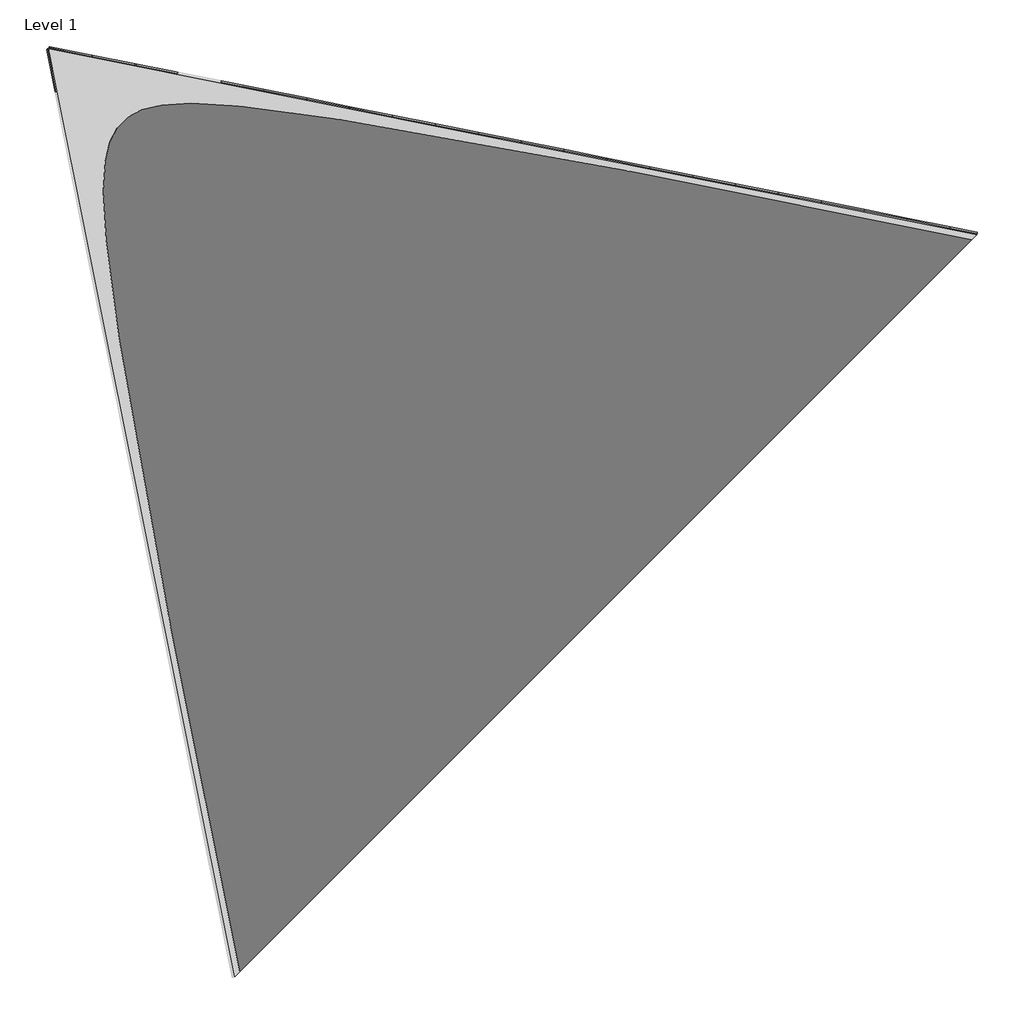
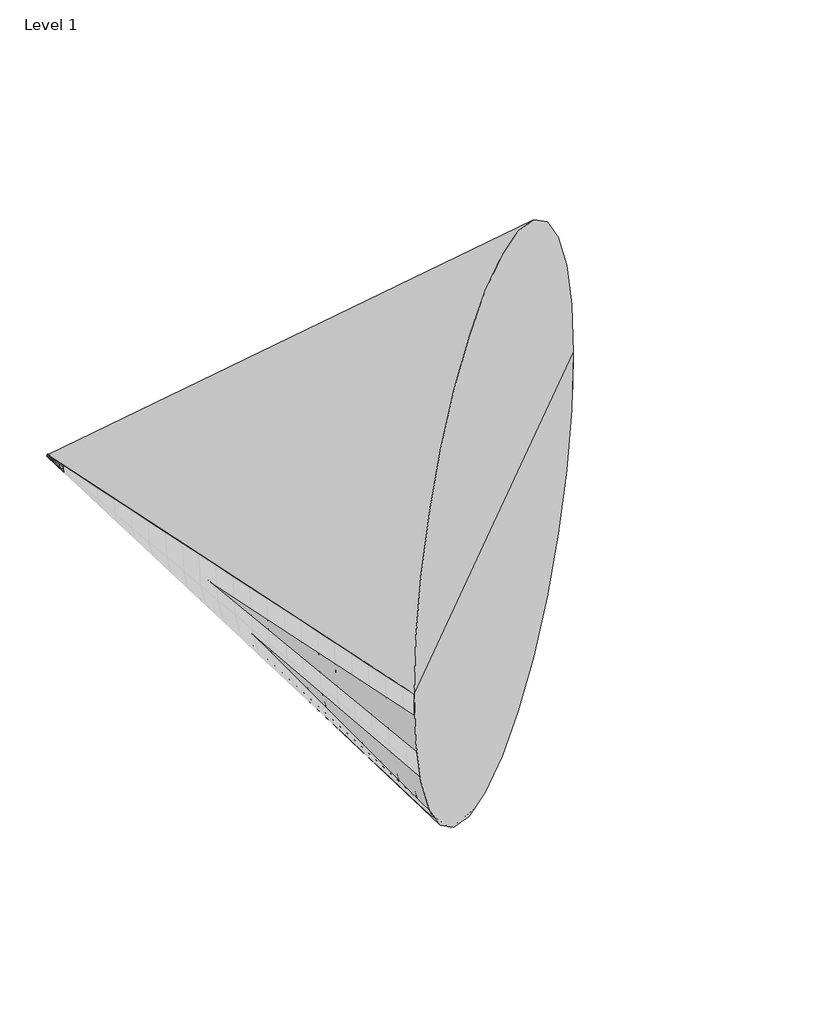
# One storey, part 3 of 3: 69 plates, 1 proxy.
"""IFC4 building model written with IfcOpenShell, lengths in millimetres."""

from ifc_helpers import new_model, si_unit, frame, origin, place, context, project, spatial, polyline, circle_curve, transform, mapped, element, save
from ifc_brep_helpers import plane_surface, revolved_surface, advanced_brep
from components import system_panel_glazed_149e3b02, system_panel_glazed_0f3f0be7, system_panel_glazed_947d4750, system_panel_glazed_51ac6327, system_panel_glazed_5ada25a3, system_panel_glazed_09de8fbd, system_panel_glazed_be0217b8, system_panel_glazed_80685a2c, system_panel_glazed_488679e0, system_panel_glazed_5c7ad1fa, system_panel_glazed_c752f533, system_panel_glazed_6e7ce93c, system_panel_glazed_3d0a4322, system_panel_glazed_0b8fe9c0, system_panel_glazed_589f0e04, system_panel_glazed_dc99ea86, system_panel_glazed_c2bd8b01, system_panel_glazed_5e8676ea, system_panel_glazed_1fc521db, system_panel_glazed_b549858f, system_panel_glazed_7c0acb9c, system_panel_glazed_5a92f5fe, system_panel_glazed_2137f639, system_panel_glazed_2e4be7a0, system_panel_glazed_54807085, system_panel_glazed_7656a875, system_panel_glazed_9aa37749, system_panel_glazed_80a4cad8, system_panel_glazed_08770cbb, system_panel_glazed_88a27ec3, system_panel_glazed_60772631, system_panel_glazed_43d3b831, system_panel_glazed_8fc64467, system_panel_glazed_c03609ab, system_panel_glazed_d4018649, system_panel_glazed_e1847e86, system_panel_glazed_aa8377f3, system_panel_glazed_db9881df, system_panel_glazed_52904192, system_panel_glazed_74823eb2, system_panel_glazed_15a0884d, system_panel_glazed_37a8a3c5, system_panel_glazed_a404a3f6, system_panel_glazed_c19471c4, system_panel_glazed_49170262, system_panel_glazed_a134ef64, system_panel_glazed_4835debb, system_panel_glazed_ed3aa00e

model = new_model("IFC4")

# Units and contexts
model_context = context("Model", 3, world=origin())
ifc_project = project(units=[si_unit("LENGTHUNIT", "METRE", prefix="MILLI")], contexts=[model_context])

# Site, building, storey
site = spatial("IfcSite", under=ifc_project)
building = spatial("IfcBuilding", under=site)
storey = spatial("IfcBuildingStorey", under=building, Name="Level 1", Elevation=0.0)

# Proxy
placement = place(None, origin())
element("IfcBuildingElementProxy", 1, Name="Mass 1 : Mass 1", ObjectType="Mass 1 : Mass 1", at=placement, inside=storey, context=model_context, shape_type="AdvancedBrep", body=[
    advanced_brep(
    [(-1456.3343902, 664.410085, 0.0), (-7922.1187974, -5801.3743221, 0.0), (5009.450017, 7130.1944922, 0.0), (-11155.011001, 10363.0866958, 0.0)],
    [
        (0, 1),
        (1, 2, circle_curve(frame((-1456.3343902, 664.410085, 0.0), z_axis=(0.7071067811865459, -0.7071067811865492, 0.0), x_axis=(-0.7071067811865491, -0.7071067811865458, 0.0)), 9144.0)),
        (2, 0),
        (2, 1, circle_curve(frame((-1456.3343902, 664.410085, 0.0), z_axis=(0.7071067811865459, -0.7071067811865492, 0.0), x_axis=(-0.7071067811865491, -0.7071067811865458, 0.0)), 9144.0)),
        (1, 3),
        (3, 2),
    ],
    [
        plane_surface(frame((-1456.3343902, 664.410085, 0.0), z_axis=(0.7071067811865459, -0.7071067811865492, 0.0), x_axis=(-0.7071067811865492, -0.7071067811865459, 0.0))),
        revolved_surface(polyline([(-11155.011001, 10363.0866958, 0.0), (-7922.1187974, -5801.3743221, 0.0)]), (-1456.3343902, 664.410085, 0.0), (0.7071067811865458, -0.7071067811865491, 0.0)),
    ],
    [
        (0, [[1, 2, 3]]),
        (0, [[-3, 4, -1]]),
        (1, [[-2, 5, 6]]),
        (1, [[-4, -6, -5]]),
    ],
),
])

# Plates
system_panel_glazed_shape = system_panel_glazed_149e3b02(model_context)
element("IfcPlate", 2, ObjectType="System Panel : Glazed", at=placement, inside=storey, context=model_context, shape_type="MappedRepresentation", body=[
    mapped(system_panel_glazed_shape, transform((-11071.5394909, 10086.3775151, -196.1247808), x_axis=(0.238981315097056, -0.7890892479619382, -0.5658852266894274), y_axis=(0.9710241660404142, 0.19420483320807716, 0.1392715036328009), z_axis=(0.0, -0.5827715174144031, 0.8126360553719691))),
])
system_panel_glazed_2_shape = system_panel_glazed_0f3f0be7(model_context)
element("IfcPlate", 3, ObjectType="System Panel : Glazed", at=placement, inside=storey, context=model_context, shape_type="MappedRepresentation", body=[
    mapped(system_panel_glazed_2_shape, transform((-11047.5053237, 10289.2156869, -218.3903844), x_axis=(0.4226580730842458, -0.27761723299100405, -0.8627217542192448), y_axis=(0.9062892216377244, 0.1294698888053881, 0.4023398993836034), z_axis=(0.0, -0.9519276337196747, 0.30632299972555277))),
])
system_panel_glazed_3_shape = system_panel_glazed_947d4750(model_context)
element("IfcPlate", 4, ObjectType="System Panel : Glazed", at=placement, inside=storey, context=model_context, shape_type="MappedRepresentation", body=[
    mapped(system_panel_glazed_3_shape, transform((-11010.3598115, 10357.3376687, -182.6425433), x_axis=(0.6207455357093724, -0.009084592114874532, -0.7839594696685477), y_axis=(0.7840121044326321, 0.007192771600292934, 0.620703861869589), z_axis=(0.0, -0.9999328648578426, 0.011587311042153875))),
])
system_panel_glazed_4_shape = system_panel_glazed_51ac6327(model_context)
element("IfcPlate", 5, ObjectType="System Panel : Glazed", at=placement, inside=storey, context=model_context, shape_type="MappedRepresentation", body=[
    mapped(system_panel_glazed_4_shape, transform((-10964.2302337, 10389.9322155, -147.5013099), x_axis=(0.7863516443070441, 0.1249462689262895, -0.6050120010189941), y_axis=(0.6177791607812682, -0.15904017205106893, 0.7701007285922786), z_axis=(0.0, -0.9793337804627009, -0.20225070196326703))),
])
system_panel_glazed_5_shape = system_panel_glazed_5ada25a3(model_context)
element("IfcPlate", 6, ObjectType="System Panel : Glazed", at=placement, inside=storey, context=model_context, shape_type="MappedRepresentation", body=[
    mapped(system_panel_glazed_5_shape, transform((-10914.2420988, 10404.0145375, -105.7957964), x_axis=(0.9046945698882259, 0.16518775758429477, -0.39273494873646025), y_axis=(0.42606071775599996, -0.3507586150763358, 0.8339308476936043), z_axis=(0.0, -0.921781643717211, -0.38770942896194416))),
])
system_panel_glazed_6_shape = system_panel_glazed_09de8fbd(model_context)
element("IfcPlate", 7, ObjectType="System Panel : Glazed", at=placement, inside=storey, context=model_context, shape_type="MappedRepresentation", body=[
    mapped(system_panel_glazed_6_shape, transform((-10538.8257131, 10082.6290138, -342.5498656), x_axis=(0.5811827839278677, 0.5811827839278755, 0.5696078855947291), y_axis=(0.051840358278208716, -0.7249789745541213, 0.6868173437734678), z_axis=(0.8121201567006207, -0.3696377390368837, -0.4514740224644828))),
])
element("IfcPlate", 8, ObjectType="System Panel : Glazed", at=placement, inside=storey, context=model_context, shape_type="MappedRepresentation", body=[
    mapped(system_panel_glazed_6_shape, transform((-10468.5409856, 10152.9137413, -245.4943542), x_axis=(0.41651481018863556, 0.41651481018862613, 0.8081032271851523), y_axis=(-0.08908151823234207, -0.8659008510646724, 0.4922196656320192), z_axis=(0.9047540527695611, -0.2770038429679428, -0.3235567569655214))),
])
element("IfcPlate", 9, ObjectType="System Panel : Glazed", at=placement, inside=storey, context=model_context, shape_type="MappedRepresentation", body=[
    mapped(system_panel_glazed_6_shape, transform((-10424.7172059, 10196.737521, -121.1616924), x_axis=(0.20556741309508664, 0.20556741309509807, 0.9568093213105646), y_axis=(-0.1769488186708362, -0.9537681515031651, 0.242930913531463), z_axis=(0.9625129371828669, -0.21924495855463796, -0.15968874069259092))),
])
system_panel_glazed_7_shape = system_panel_glazed_be0217b8(model_context)
element("IfcPlate", 10, ObjectType="System Panel : Glazed", at=placement, inside=storey, context=model_context, shape_type="MappedRepresentation", body=[
    mapped(system_panel_glazed_7_shape, transform((-9694.4234108, 10030.3883462, -242.3233849), x_axis=(0.20556741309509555, 0.20556741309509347, 0.9568093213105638), y_axis=(-0.17694881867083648, -0.9537681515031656, 0.24293091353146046), z_axis=(0.962512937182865, -0.21924495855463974, -0.1596887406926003))),
])
system_panel_glazed_8_shape = system_panel_glazed_80685a2c(model_context)
element("IfcPlate", 11, ObjectType="System Panel : Glazed", at=placement, inside=storey, context=model_context, shape_type="MappedRepresentation", body=[
    mapped(system_panel_glazed_8_shape, transform((-7722.6609241, 9312.2219234, -1227.4717712), x_axis=(0.4165148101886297, 0.41651481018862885, 0.8081032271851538), y_axis=(-0.08908151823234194, -0.865900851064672, 0.4922196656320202), z_axis=(0.9047540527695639, -0.2770038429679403, -0.32355675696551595))),
])
element("IfcPlate", 12, ObjectType="System Panel : Glazed", at=placement, inside=storey, context=model_context, shape_type="MappedRepresentation", body=[
    mapped(system_panel_glazed_8_shape, transform((-7503.5420257, 9531.3408218, -605.8084622), x_axis=(0.20556741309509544, 0.2055674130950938, 0.9568093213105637), y_axis=(-0.1769488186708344, -0.9537681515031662, 0.24293091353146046), z_axis=(0.9625129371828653, -0.21924495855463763, -0.15968874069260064))),
])
system_panel_glazed_9_shape = system_panel_glazed_488679e0(model_context)
element("IfcPlate", 13, ObjectType="System Panel : Glazed", at=placement, inside=storey, context=model_context, shape_type="MappedRepresentation", body=[
    mapped(system_panel_glazed_9_shape, transform((-7991.5168407, 8146.7230369, -2409.2656843), x_axis=(0.6812748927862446, 0.6812748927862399, 0.26782277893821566), y_axis=(0.230158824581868, -0.5466605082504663, 0.805101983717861), z_axis=(0.694903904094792, -0.48685399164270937, -0.5292275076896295))),
])
element("IfcPlate", 14, ObjectType="System Panel : Glazed", at=placement, inside=storey, context=model_context, shape_type="MappedRepresentation", body=[
    mapped(system_panel_glazed_9_shape, transform((-7457.8992737, 8680.3406039, -2055.2991934), x_axis=(0.5811827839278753, 0.5811827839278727, 0.5696078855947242), y_axis=(0.05184035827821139, -0.7249789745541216, 0.6868173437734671), z_axis=(0.812120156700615, -0.36963773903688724, -0.4514740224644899))),
])
element("IfcPlate", 15, ObjectType="System Panel : Glazed", at=placement, inside=storey, context=model_context, shape_type="MappedRepresentation", body=[
    mapped(system_panel_glazed_9_shape, transform((-7036.1909087, 9102.048969, -1472.9661254), x_axis=(0.4165148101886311, 0.41651481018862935, 0.8081032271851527), y_axis=(-0.08908151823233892, -0.8659008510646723, 0.4922196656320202), z_axis=(0.9047540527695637, -0.2770038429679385, -0.3235567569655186))),
])
element("IfcPlate", 16, ObjectType="System Panel : Glazed", at=placement, inside=storey, context=model_context, shape_type="MappedRepresentation", body=[
    mapped(system_panel_glazed_9_shape, transform((-6773.2482306, 9364.991647, -726.9701547), x_axis=(0.20556741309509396, 0.2055674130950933, 0.9568093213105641), y_axis=(-0.17694881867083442, -0.9537681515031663, 0.24293091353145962), z_axis=(0.9625129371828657, -0.21924495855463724, -0.15968874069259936))),
])
system_panel_glazed_10_shape = system_panel_glazed_5c7ad1fa(model_context)
element("IfcPlate", 17, ObjectType="System Panel : Glazed", at=placement, inside=storey, context=model_context, shape_type="MappedRepresentation", body=[
    mapped(system_panel_glazed_10_shape, transform((-6841.7139858, 8399.8829219, -2397.8490589), x_axis=(0.581182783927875, 0.5811827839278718, 0.5696078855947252), y_axis=(0.05184035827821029, -0.7249789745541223, 0.6868173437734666), z_axis=(0.8121201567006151, -0.36963773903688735, -0.4514740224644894))),
])
element("IfcPlate", 18, ObjectType="System Panel : Glazed", at=placement, inside=storey, context=model_context, shape_type="MappedRepresentation", body=[
    mapped(system_panel_glazed_10_shape, transform((-6349.7208933, 8891.8760145, -1718.4604797), x_axis=(0.4165148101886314, 0.4165148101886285, 0.8081032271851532), y_axis=(-0.08908151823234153, -0.865900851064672, 0.49221966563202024), z_axis=(0.9047540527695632, -0.2770038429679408, -0.32355675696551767))),
])
element("IfcPlate", 19, ObjectType="System Panel : Glazed", at=placement, inside=storey, context=model_context, shape_type="MappedRepresentation", body=[
    mapped(system_panel_glazed_10_shape, transform((-6042.9544356, 9198.6424722, -848.1318471), x_axis=(0.20556741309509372, 0.20556741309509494, 0.9568093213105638), y_axis=(-0.17694881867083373, -0.953768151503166, 0.24293091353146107), z_axis=(0.9625129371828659, -0.2192449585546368, -0.15968874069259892))),
])
system_panel_glazed_11_shape = system_panel_glazed_c752f533(model_context)
element("IfcPlate", 20, ObjectType="System Panel : Glazed", at=placement, inside=storey, context=model_context, shape_type="MappedRepresentation", body=[
    mapped(system_panel_glazed_11_shape, transform((-6225.528698, 8119.42524, -2740.3989245), x_axis=(0.5811827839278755, 0.5811827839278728, 0.569607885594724), y_axis=(0.05184035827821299, -0.7249789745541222, 0.6868173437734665), z_axis=(0.8121201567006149, -0.36963773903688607, -0.45147402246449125))),
])
element("IfcPlate", 21, ObjectType="System Panel : Glazed", at=placement, inside=storey, context=model_context, shape_type="MappedRepresentation", body=[
    mapped(system_panel_glazed_11_shape, transform((-5663.2508779, 8681.70306, -1963.9548339), x_axis=(0.41651481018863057, 0.416514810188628, 0.8081032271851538), y_axis=(-0.08908151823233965, -0.8659008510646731, 0.49221966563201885), z_axis=(0.9047540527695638, -0.27700384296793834, -0.3235567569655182))),
])
element("IfcPlate", 22, ObjectType="System Panel : Glazed", at=placement, inside=storey, context=model_context, shape_type="MappedRepresentation", body=[
    mapped(system_panel_glazed_11_shape, transform((-5312.6606405, 9032.2932974, -969.2935396), x_axis=(0.2055674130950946, 0.20556741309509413, 0.9568093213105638), y_axis=(-0.17694881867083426, -0.9537681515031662, 0.24293091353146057), z_axis=(0.9625129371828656, -0.21924495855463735, -0.1596887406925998))),
])
system_panel_glazed_12_shape = system_panel_glazed_6e7ce93c(model_context)
element("IfcPlate", 23, ObjectType="System Panel : Glazed", at=placement, inside=storey, context=model_context, shape_type="MappedRepresentation", body=[
    mapped(system_panel_glazed_12_shape, transform((-4976.7808625, 8471.5301055, -2209.4491882), x_axis=(0.41651481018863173, 0.4165148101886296, 0.8081032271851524), y_axis=(-0.0890815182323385, -0.8659008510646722, 0.4922196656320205), z_axis=(0.9047540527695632, -0.2770038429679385, -0.32355675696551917))),
])
element("IfcPlate", 24, ObjectType="System Panel : Glazed", at=placement, inside=storey, context=model_context, shape_type="MappedRepresentation", body=[
    mapped(system_panel_glazed_12_shape, transform((-4582.3668454, 8865.9441226, -1090.455232), x_axis=(0.20556741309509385, 0.20556741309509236, 0.9568093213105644), y_axis=(-0.17694881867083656, -0.953768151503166, 0.24293091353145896), z_axis=(0.9625129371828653, -0.2192449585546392, -0.15968874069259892))),
])
system_panel_glazed_13_shape = system_panel_glazed_3d0a4322(model_context)
element("IfcPlate", 25, ObjectType="System Panel : Glazed", at=placement, inside=storey, context=model_context, shape_type="MappedRepresentation", body=[
    mapped(system_panel_glazed_13_shape, transform((-4290.3108472, 8261.3571511, -2454.9435424), x_axis=(0.4165148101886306, 0.4165148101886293, 0.8081032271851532), y_axis=(-0.08908151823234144, -0.8659008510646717, 0.49221966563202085), z_axis=(0.9047540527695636, -0.27700384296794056, -0.32355675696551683))),
])
element("IfcPlate", 26, ObjectType="System Panel : Glazed", at=placement, inside=storey, context=model_context, shape_type="MappedRepresentation", body=[
    mapped(system_panel_glazed_13_shape, transform((-3852.0730504, 8699.5949478, -1211.6169244), x_axis=(0.2055674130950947, 0.20556741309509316, 0.956809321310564), y_axis=(-0.1769488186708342, -0.9537681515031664, 0.24293091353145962), z_axis=(0.9625129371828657, -0.21924495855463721, -0.15968874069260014))),
])
system_panel_glazed_14_shape = system_panel_glazed_0b8fe9c0(model_context)
element("IfcPlate", 27, ObjectType="System Panel : Glazed", at=placement, inside=storey, context=model_context, shape_type="MappedRepresentation", body=[
    mapped(system_panel_glazed_14_shape, transform((-10865.949644, 10399.0997632, -58.1828158), x_axis=(0.9731530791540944, 0.1292897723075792, -0.19041333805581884), y_axis=(0.23015882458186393, -0.5466605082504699, 0.8051019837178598), z_axis=(0.0, -0.827312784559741, -0.5617415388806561))),
])
system_panel_glazed_15_shape = system_panel_glazed_589f0e04(model_context)
element("IfcPlate", 28, ObjectType="System Panel : Glazed", at=placement, inside=storey, context=model_context, shape_type="MappedRepresentation", body=[
    mapped(system_panel_glazed_15_shape, transform((-10824.7186977, 10373.9454606, -13.4680571), x_axis=(0.9986553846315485, 0.037633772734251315, -0.035652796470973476), y_axis=(0.051840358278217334, -0.724978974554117, 0.6868173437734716), z_axis=(0.0, -0.6877420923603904, -0.7259551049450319))),
])
system_panel_glazed_16_shape = system_panel_glazed_dc99ea86(model_context)
element("IfcPlate", 29, ObjectType="System Panel : Glazed", at=placement, inside=storey, context=model_context, shape_type="MappedRepresentation", body=[
    mapped(system_panel_glazed_16_shape, transform((-10795.1304761, 10334.3527834, 14.5828881), x_axis=(0.9960243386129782, -0.07744365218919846, 0.044022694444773), y_axis=(-0.08908151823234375, -0.8659008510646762, 0.49221966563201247), z_axis=(0.0, -0.4941843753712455, -0.8693571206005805))),
])
system_panel_glazed_17_shape = system_panel_glazed_c2bd8b01(model_context)
element("IfcPlate", 30, ObjectType="System Panel : Glazed", at=placement, inside=storey, context=model_context, shape_type="MappedRepresentation", body=[
    mapped(system_panel_glazed_17_shape, transform((-10780.4725594, 10297.7005313, 16.0987891), x_axis=(0.9842200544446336, -0.17147399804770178, 0.04367553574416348), y_axis=(-0.17694881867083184, -0.953768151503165, 0.24293091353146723), z_axis=(0.0, -0.24682581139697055, -0.9690598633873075))),
])
system_panel_glazed_18_shape = system_panel_glazed_5e8676ea(model_context)
element("IfcPlate", 31, ObjectType="System Panel : Glazed", at=placement, inside=storey, context=model_context, shape_type="MappedRepresentation", body=[
    mapped(system_panel_glazed_18_shape, transform((-10779.171992, 10288.1362621, 4.0120607), x_axis=(0.9806358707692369, -0.19555316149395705, 0.01059480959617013), y_axis=(-0.1958399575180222, -0.9791997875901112, 0.05305173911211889), z_axis=(0.0, -0.05409932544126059, -0.998535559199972))),
])
system_panel_glazed_19_shape = system_panel_glazed_1fc521db(model_context)
element("IfcPlate", 32, ObjectType="System Panel : Glazed", at=placement, inside=storey, context=model_context, shape_type="MappedRepresentation", body=[
    mapped(system_panel_glazed_19_shape, transform((-10409.0220699, 10212.432657, -26.878709), x_axis=(0.04505713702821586, 0.045057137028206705, 0.9979677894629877), y_axis=(-0.19583995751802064, -0.9791997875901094, 0.05305173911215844), z_axis=(0.9796002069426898, -0.19783232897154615, -0.03529595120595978))),
])
system_panel_glazed_20_shape = system_panel_glazed_b549858f(model_context)
element("IfcPlate", 33, ObjectType="System Panel : Glazed", at=placement, inside=storey, context=model_context, shape_type="MappedRepresentation", body=[
    mapped(system_panel_glazed_20_shape, transform((-9663.0331389, 10061.7786181, -53.757418), x_axis=(0.045057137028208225, 0.045057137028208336, 0.9979677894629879), y_axis=(-0.19583995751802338, -0.9791997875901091, 0.053051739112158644), z_axis=(0.9796002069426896, -0.19783232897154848, -0.03529595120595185))),
])
system_panel_glazed_21_shape = system_panel_glazed_7c0acb9c(model_context)
element("IfcPlate", 34, ObjectType="System Panel : Glazed", at=placement, inside=storey, context=model_context, shape_type="MappedRepresentation", body=[
    mapped(system_panel_glazed_21_shape, transform((-8171.0552769, 9760.4705405, -107.514836), x_axis=(0.045057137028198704, 0.0450571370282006, 0.9979677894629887), y_axis=(-0.1958399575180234, -0.9791997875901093, 0.053051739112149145), z_axis=(0.9796002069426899, -0.1978323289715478, -0.03529595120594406))),
])
system_panel_glazed_22_shape = system_panel_glazed_5a92f5fe(model_context)
element("IfcPlate", 35, ObjectType="System Panel : Glazed", at=placement, inside=storey, context=model_context, shape_type="MappedRepresentation", body=[
    mapped(system_panel_glazed_22_shape, transform((-7425.0663458, 9609.8165017, -134.3935451), x_axis=(0.045057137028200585, 0.04505713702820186, 0.9979677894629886), y_axis=(-0.19583995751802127, -0.9791997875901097, 0.05305173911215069), z_axis=(0.9796002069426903, -0.1978323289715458, -0.035295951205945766))),
])
system_panel_glazed_23_shape = system_panel_glazed_2137f639(model_context)
element("IfcPlate", 36, ObjectType="System Panel : Glazed", at=placement, inside=storey, context=model_context, shape_type="MappedRepresentation", body=[
    mapped(system_panel_glazed_23_shape, transform((-6679.0774148, 9459.1624628, -161.2722541), x_axis=(0.045057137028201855, 0.045057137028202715, 0.9979677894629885), y_axis=(-0.1958399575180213, -0.9791997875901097, 0.05305173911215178), z_axis=(0.9796002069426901, -0.19783232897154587, -0.035295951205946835))),
])
system_panel_glazed_24_shape = system_panel_glazed_2e4be7a0(model_context)
element("IfcPlate", 37, ObjectType="System Panel : Glazed", at=placement, inside=storey, context=model_context, shape_type="MappedRepresentation", body=[
    mapped(system_panel_glazed_24_shape, transform((-5933.0884838, 9308.508424, -188.1509631), x_axis=(0.04505713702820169, 0.04505713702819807, 0.9979677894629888), y_axis=(-0.19583995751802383, -0.9791997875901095, 0.053051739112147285), z_axis=(0.9796002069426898, -0.19783232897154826, -0.03529595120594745))),
])
system_panel_glazed_25_shape = system_panel_glazed_54807085(model_context)
element("IfcPlate", 38, ObjectType="System Panel : Glazed", at=placement, inside=storey, context=model_context, shape_type="MappedRepresentation", body=[
    mapped(system_panel_glazed_25_shape, transform((-5187.0995528, 9157.8543852, -215.0296721), x_axis=(0.04505713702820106, 0.045057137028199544, 0.9979677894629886), y_axis=(-0.19583995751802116, -0.97919978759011, 0.05305173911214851), z_axis=(0.9796002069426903, -0.19783232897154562, -0.035295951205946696))),
])
system_panel_glazed_26_shape = system_panel_glazed_7656a875(model_context)
element("IfcPlate", 39, ObjectType="System Panel : Glazed", at=placement, inside=storey, context=model_context, shape_type="MappedRepresentation", body=[
    mapped(system_panel_glazed_26_shape, transform((-4441.1106217, 9007.2003463, -241.9083811), x_axis=(0.04505713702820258, 0.04505713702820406, 0.9979677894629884), y_axis=(-0.1958399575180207, -0.9791997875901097, 0.053051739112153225), z_axis=(0.9796002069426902, -0.19783232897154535, -0.035295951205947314))),
])
system_panel_glazed_27_shape = system_panel_glazed_9aa37749(model_context)
element("IfcPlate", 40, ObjectType="System Panel : Glazed", at=placement, inside=storey, context=model_context, shape_type="MappedRepresentation", body=[
    mapped(system_panel_glazed_27_shape, transform((-3695.1216907, 8856.5463075, -268.7870901), x_axis=(0.04505713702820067, 0.045057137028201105, 0.9979677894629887), y_axis=(-0.19583995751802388, -0.9791997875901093, 0.05305173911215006), z_axis=(0.9796002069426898, -0.19783232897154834, -0.03529595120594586))),
])
system_panel_glazed_28_shape = system_panel_glazed_80a4cad8(model_context)
element("IfcPlate", 41, ObjectType="System Panel : Glazed", at=placement, inside=storey, context=model_context, shape_type="MappedRepresentation", body=[
    mapped(system_panel_glazed_28_shape, transform((-3603.8408318, 8051.1841966, -2700.4378966), x_axis=(0.4165148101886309, 0.41651481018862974, 0.8081032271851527), y_axis=(-0.08908151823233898, -0.8659008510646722, 0.4922196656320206), z_axis=(0.9047540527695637, -0.27700384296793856, -0.3235567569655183))),
])
element("IfcPlate", 42, ObjectType="System Panel : Glazed", at=placement, inside=storey, context=model_context, shape_type="MappedRepresentation", body=[
    mapped(system_panel_glazed_28_shape, transform((-3121.7792553, 8533.245773, -1332.7786169), x_axis=(0.20556741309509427, 0.2055674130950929, 0.9568093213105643), y_axis=(-0.17694881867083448, -0.9537681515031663, 0.24293091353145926), z_axis=(0.9625129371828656, -0.2192449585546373, -0.1596887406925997))),
])
system_panel_glazed_29_shape = system_panel_glazed_08770cbb(model_context)
element("IfcPlate", 43, ObjectType="System Panel : Glazed", at=placement, inside=storey, context=model_context, shape_type="MappedRepresentation", body=[
    mapped(system_panel_glazed_29_shape, transform((-2949.1327597, 8705.8922687, -295.6657991), x_axis=(0.04505713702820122, 0.045057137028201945, 0.9979677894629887), y_axis=(-0.1958399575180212, -0.9791997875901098, 0.05305173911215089), z_axis=(0.9796002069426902, -0.1978323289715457, -0.03529595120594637))),
])
system_panel_glazed_30_shape = system_panel_glazed_88a27ec3(model_context)
element("IfcPlate", 44, ObjectType="System Panel : Glazed", at=placement, inside=storey, context=model_context, shape_type="MappedRepresentation", body=[
    mapped(system_panel_glazed_30_shape, transform((-2391.4854603, 8366.8965983, -1453.9403093), x_axis=(0.2055674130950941, 0.20556741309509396, 0.956809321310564), y_axis=(-0.1769488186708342, -0.9537681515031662, 0.2429309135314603), z_axis=(0.9625129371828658, -0.21924495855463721, -0.15968874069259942))),
])
system_panel_glazed_31_shape = system_panel_glazed_60772631(model_context)
element("IfcPlate", 45, ObjectType="System Panel : Glazed", at=placement, inside=storey, context=model_context, shape_type="MappedRepresentation", body=[
    mapped(system_panel_glazed_31_shape, transform((-2203.1438287, 8555.2382299, -322.5445081), x_axis=(0.04505713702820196, 0.04505713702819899, 0.9979677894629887), y_axis=(-0.1958399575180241, -0.9791997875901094, 0.05305173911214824), z_axis=(0.9796002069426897, -0.19783232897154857, -0.03529595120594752))),
])
system_panel_glazed_32_shape = system_panel_glazed_43d3b831(model_context)
element("IfcPlate", 46, ObjectType="System Panel : Glazed", at=placement, inside=storey, context=model_context, shape_type="MappedRepresentation", body=[
    mapped(system_panel_glazed_32_shape, transform((-1661.1916652, 8200.5474235, -1575.1020018), x_axis=(0.20556741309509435, 0.20556741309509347, 0.9568093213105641), y_axis=(-0.1769488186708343, -0.9537681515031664, 0.24293091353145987), z_axis=(0.9625129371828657, -0.21924495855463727, -0.15968874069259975))),
])
system_panel_glazed_33_shape = system_panel_glazed_8fc64467(model_context)
element("IfcPlate", 47, ObjectType="System Panel : Glazed", at=placement, inside=storey, context=model_context, shape_type="MappedRepresentation", body=[
    mapped(system_panel_glazed_33_shape, transform((-1457.1548976, 8404.584191, -349.4232171), x_axis=(0.045057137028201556, 0.045057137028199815, 0.9979677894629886), y_axis=(-0.1958399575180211, -0.9791997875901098, 0.05305173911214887), z_axis=(0.9796002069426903, -0.1978323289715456, -0.03529595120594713))),
])
system_panel_glazed_34_shape = system_panel_glazed_c03609ab(model_context)
element("IfcPlate", 48, ObjectType="System Panel : Glazed", at=placement, inside=storey, context=model_context, shape_type="MappedRepresentation", body=[
    mapped(system_panel_glazed_34_shape, transform((-930.8978702, 8034.1982487, -1696.2636942), x_axis=(0.20556741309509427, 0.20556741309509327, 0.9568093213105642), y_axis=(-0.17694881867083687, -0.9537681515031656, 0.24293091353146), z_axis=(0.9625129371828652, -0.21924495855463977, -0.15968874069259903))),
])
system_panel_glazed_35_shape = system_panel_glazed_d4018649(model_context)
element("IfcPlate", 49, ObjectType="System Panel : Glazed", at=placement, inside=storey, context=model_context, shape_type="MappedRepresentation", body=[
    mapped(system_panel_glazed_35_shape, transform((-711.1659666, 8253.9301522, -376.3019262), x_axis=(0.045057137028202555, 0.04505713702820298, 0.9979677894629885), y_axis=(-0.19583995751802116, -0.9791997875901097, 0.05305173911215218), z_axis=(0.9796002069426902, -0.1978323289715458, -0.03529595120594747))),
])
system_panel_glazed_36_shape = system_panel_glazed_e1847e86(model_context)
element("IfcPlate", 50, ObjectType="System Panel : Glazed", at=placement, inside=storey, context=model_context, shape_type="MappedRepresentation", body=[
    mapped(system_panel_glazed_36_shape, transform((34.8229644, 8103.2761134, -403.1806352), x_axis=(0.045057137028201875, 0.045057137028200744, 0.9979677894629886), y_axis=(-0.19583995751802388, -0.9791997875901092, 0.05305173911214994), z_axis=(0.9796002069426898, -0.19783232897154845, -0.0352959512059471))),
])
system_panel_glazed_37_shape = system_panel_glazed_aa8377f3(model_context)
element("IfcPlate", 51, ObjectType="System Panel : Glazed", at=placement, inside=storey, context=model_context, shape_type="MappedRepresentation", body=[
    mapped(system_panel_glazed_37_shape, transform((529.68972, 7701.4998991, -1938.5870791), x_axis=(0.20556741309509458, 0.20556741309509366, 0.9568093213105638), y_axis=(-0.17694881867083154, -0.9537681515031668, 0.24293091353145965), z_axis=(0.9625129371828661, -0.21924495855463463, -0.15968874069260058))),
])
system_panel_glazed_38_shape = system_panel_glazed_db9881df(model_context)
element("IfcPlate", 52, ObjectType="System Panel : Glazed", at=placement, inside=storey, context=model_context, shape_type="MappedRepresentation", body=[
    mapped(system_panel_glazed_38_shape, transform((780.8118954, 7952.6220746, -430.0593442), x_axis=(0.045057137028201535, 0.04505713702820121, 0.9979677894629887), y_axis=(-0.19583995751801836, -0.9791997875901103, 0.05305173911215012), z_axis=(0.9796002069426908, -0.19783232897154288, -0.035295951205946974))),
])
system_panel_glazed_39_shape = system_panel_glazed_52904192(model_context)
element("IfcPlate", 53, ObjectType="System Panel : Glazed", at=placement, inside=storey, context=model_context, shape_type="MappedRepresentation", body=[
    mapped(system_panel_glazed_39_shape, transform((514.9792605, 6790.1464697, -4173.4040221), x_axis=(0.4165148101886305, 0.41651481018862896, 0.8081032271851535), y_axis=(-0.08908151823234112, -0.8659008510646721, 0.4922196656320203), z_axis=(0.9047540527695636, -0.27700384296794, -0.323556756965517))),
])
element("IfcPlate", 54, ObjectType="System Panel : Glazed", at=placement, inside=storey, context=model_context, shape_type="MappedRepresentation", body=[
    mapped(system_panel_glazed_39_shape, transform((1259.983515, 7535.1507243, -2059.7487715), x_axis=(0.20556741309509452, 0.20556741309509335, 0.956809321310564), y_axis=(-0.1769488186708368, -0.9537681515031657, 0.24293091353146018), z_axis=(0.9625129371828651, -0.21924495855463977, -0.15968874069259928))),
])
system_panel_glazed_40_shape = system_panel_glazed_74823eb2(model_context)
element("IfcPlate", 55, ObjectType="System Panel : Glazed", at=placement, inside=storey, context=model_context, shape_type="MappedRepresentation", body=[
    mapped(system_panel_glazed_40_shape, transform((1526.8008265, 7801.9680357, -456.9380532), x_axis=(0.04505713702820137, 0.04505713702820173, 0.9979677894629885), y_axis=(-0.19583995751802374, -0.9791997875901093, 0.05305173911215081), z_axis=(0.9796002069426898, -0.1978323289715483, -0.03529595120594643))),
])
system_panel_glazed_41_shape = system_panel_glazed_15a0884d(model_context)
element("IfcPlate", 56, ObjectType="System Panel : Glazed", at=placement, inside=storey, context=model_context, shape_type="MappedRepresentation", body=[
    mapped(system_panel_glazed_41_shape, transform((1201.4492759, 6579.9735153, -4418.8983763), x_axis=(0.416514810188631, 0.41651481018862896, 0.808103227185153), y_axis=(-0.08908151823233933, -0.8659008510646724, 0.4922196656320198), z_axis=(0.9047540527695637, -0.2770038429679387, -0.3235567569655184))),
])
element("IfcPlate", 57, ObjectType="System Panel : Glazed", at=placement, inside=storey, context=model_context, shape_type="MappedRepresentation", body=[
    mapped(system_panel_glazed_41_shape, transform((1990.2773101, 7368.8015495, -2180.910464), x_axis=(0.20556741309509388, 0.20556741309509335, 0.9568093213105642), y_axis=(-0.17694881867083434, -0.9537681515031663, 0.24293091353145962), z_axis=(0.9625129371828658, -0.21924495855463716, -0.15968874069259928))),
])
system_panel_glazed_42_shape = system_panel_glazed_37a8a3c5(model_context)
element("IfcPlate", 58, ObjectType="System Panel : Glazed", at=placement, inside=storey, context=model_context, shape_type="MappedRepresentation", body=[
    mapped(system_panel_glazed_42_shape, transform((2272.7897575, 7651.3139969, -483.8167622), x_axis=(0.04505713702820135, 0.045057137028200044, 0.9979677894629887), y_axis=(-0.19583995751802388, -0.9791997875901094, 0.05305173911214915), z_axis=(0.9796002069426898, -0.19783232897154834, -0.035295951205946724))),
])
system_panel_glazed_43_shape = system_panel_glazed_a404a3f6(model_context)
element("IfcPlate", 59, ObjectType="System Panel : Glazed", at=placement, inside=storey, context=model_context, shape_type="MappedRepresentation", body=[
    mapped(system_panel_glazed_43_shape, transform((552.5094686, 5034.3907382, -6508.4474457), x_axis=(0.5811827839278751, 0.5811827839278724, 0.5696078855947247), y_axis=(0.05184035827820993, -0.7249789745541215, 0.6868173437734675), z_axis=(0.8121201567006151, -0.3696377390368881, -0.45147402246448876))),
])
element("IfcPlate", 60, ObjectType="System Panel : Glazed", at=placement, inside=storey, context=model_context, shape_type="MappedRepresentation", body=[
    mapped(system_panel_glazed_43_shape, transform((1887.9192912, 6369.8005608, -4664.3927305), x_axis=(0.41651481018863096, 0.41651481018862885, 0.8081032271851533), y_axis=(-0.08908151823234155, -0.865900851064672, 0.49221966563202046), z_axis=(0.9047540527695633, -0.2770038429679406, -0.32355675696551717))),
])
element("IfcPlate", 61, ObjectType="System Panel : Glazed", at=placement, inside=storey, context=model_context, shape_type="MappedRepresentation", body=[
    mapped(system_panel_glazed_43_shape, transform((2720.5711051, 7202.4523747, -2302.0721564), x_axis=(0.20556741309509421, 0.2055674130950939, 0.9568093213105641), y_axis=(-0.17694881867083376, -0.9537681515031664, 0.24293091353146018), z_axis=(0.9625129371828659, -0.21924495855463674, -0.15968874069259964))),
])
system_panel_glazed_44_shape = system_panel_glazed_c19471c4(model_context)
element("IfcPlate", 62, ObjectType="System Panel : Glazed", at=placement, inside=storey, context=model_context, shape_type="MappedRepresentation", body=[
    mapped(system_panel_glazed_44_shape, transform((3018.7786885, 7500.6599581, -510.6954712), x_axis=(0.045057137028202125, 0.045057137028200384, 0.9979677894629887), y_axis=(-0.1958399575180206, -0.9791997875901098, 0.05305173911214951), z_axis=(0.9796002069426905, -0.19783232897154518, -0.0352959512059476))),
])
system_panel_glazed_45_shape = system_panel_glazed_49170262(model_context)
element("IfcPlate", 63, ObjectType="System Panel : Glazed", at=placement, inside=storey, context=model_context, shape_type="MappedRepresentation", body=[
    mapped(system_panel_glazed_45_shape, transform((1168.6947565, 4753.9330562, -6850.9973113), x_axis=(0.5811827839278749, 0.5811827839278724, 0.569607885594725), y_axis=(0.05184035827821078, -0.7249789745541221, 0.6868173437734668), z_axis=(0.8121201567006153, -0.3696377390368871, -0.45147402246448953))),
])
element("IfcPlate", 64, ObjectType="System Panel : Glazed", at=placement, inside=storey, context=model_context, shape_type="MappedRepresentation", body=[
    mapped(system_panel_glazed_45_shape, transform((2574.3893066, 6159.6276063, -4909.8870848), x_axis=(0.41651481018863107, 0.41651481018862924, 0.808103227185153), y_axis=(-0.08908151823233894, -0.8659008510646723, 0.4922196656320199), z_axis=(0.9047540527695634, -0.27700384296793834, -0.3235567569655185))),
])
element("IfcPlate", 65, ObjectType="System Panel : Glazed", at=placement, inside=storey, context=model_context, shape_type="MappedRepresentation", body=[
    mapped(system_panel_glazed_45_shape, transform((3450.8649002, 7036.1031999, -2423.2338489), x_axis=(0.20556741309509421, 0.20556741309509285, 0.9568093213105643), y_axis=(-0.1769488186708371, -0.9537681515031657, 0.24293091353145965), z_axis=(0.9625129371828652, -0.21924495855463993, -0.15968874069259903))),
])
system_panel_glazed_46_shape = system_panel_glazed_a134ef64(model_context)
element("IfcPlate", 66, ObjectType="System Panel : Glazed", at=placement, inside=storey, context=model_context, shape_type="MappedRepresentation", body=[
    mapped(system_panel_glazed_46_shape, transform((3764.7676195, 7350.0059193, -537.5741802), x_axis=(0.04505713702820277, 0.04505713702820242, 0.9979677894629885), y_axis=(-0.19583995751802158, -0.9791997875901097, 0.053051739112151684), z_axis=(0.9796002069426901, -0.19783232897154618, -0.03529595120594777))),
])
system_panel_glazed_47_shape = system_panel_glazed_4835debb(model_context)
element("IfcPlate", 67, ObjectType="System Panel : Glazed", at=placement, inside=storey, context=model_context, shape_type="MappedRepresentation", body=[
    mapped(system_panel_glazed_47_shape, transform((1784.8800444, 4473.4753742, -7193.5471768), x_axis=(0.5811827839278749, 0.5811827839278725, 0.5696078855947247), y_axis=(0.051840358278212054, -0.7249789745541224, 0.6868173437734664), z_axis=(0.8121201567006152, -0.3696377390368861, -0.4514740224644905))),
])
element("IfcPlate", 68, ObjectType="System Panel : Glazed", at=placement, inside=storey, context=model_context, shape_type="MappedRepresentation", body=[
    mapped(system_panel_glazed_47_shape, transform((3260.859322, 5949.4546519, -5155.381439), x_axis=(0.41651481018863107, 0.41651481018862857, 0.8081032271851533), y_axis=(-0.08908151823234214, -0.8659008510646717, 0.49221966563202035), z_axis=(0.9047540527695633, -0.2770038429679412, -0.32355675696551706))),
])
element("IfcPlate", 69, ObjectType="System Panel : Glazed", at=placement, inside=storey, context=model_context, shape_type="MappedRepresentation", body=[
    mapped(system_panel_glazed_47_shape, transform((4181.1586952, 6869.7540251, -2544.3955413), x_axis=(0.20556741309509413, 0.20556741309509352, 0.9568093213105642), y_axis=(-0.17694881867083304, -0.9537681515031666, 0.24293091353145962), z_axis=(0.962512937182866, -0.21924495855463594, -0.15968874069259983))),
])
system_panel_glazed_48_shape = system_panel_glazed_ed3aa00e(model_context)
element("IfcPlate", 70, ObjectType="System Panel : Glazed", at=placement, inside=storey, context=model_context, shape_type="MappedRepresentation", body=[
    mapped(system_panel_glazed_48_shape, transform((4510.7565506, 7199.3518804, -564.4528892), x_axis=(0.04505713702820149, 0.045057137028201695, 0.9979677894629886), y_axis=(-0.19583995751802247, -0.9791997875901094, 0.05305173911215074), z_axis=(0.97960020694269, -0.19783232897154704, -0.03529595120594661))),
])

save(model, "model.ifc")
